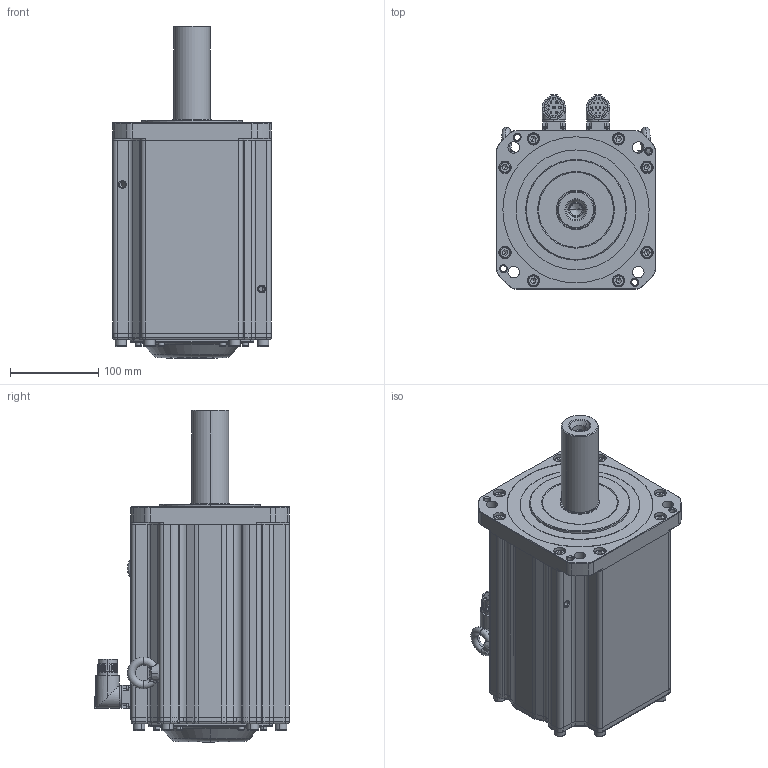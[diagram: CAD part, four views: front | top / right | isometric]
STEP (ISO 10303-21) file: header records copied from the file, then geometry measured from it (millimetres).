
FILE_DESCRIPTION (( 'STEP AP203' ), '1' );
FILE_NAME ('MC20-180-3M20-N752-0¡õPL-NNNN.STEP', '2025-07-30T13:18:09', ( '' ), ( '' ), 'SwSTEP 2.0', 'SolidWorks 2014', '' );
FILE_SCHEMA (( 'CONFIG_CONTROL_DESIGN' ));
Length unit declared in the file: millimetre
Products named in the file (1): MC20-180-3M20-N752-0¡õPL-NNNN
Bounding box: 180 x 221.35 x 376.95 mm (x, y, z)
Volume: 9225291.6 mm3; surface area: 538636.8 mm2
Topology: 40 solids, 42 shells, 2194 faces, 5079 edges, 3029 vertices
Faces by surface type: plane 879, cylinder 578, cone 482, torus 208, bspline 47
Entity records: 64150 total; most frequent: CARTESIAN_POINT 14085, DIRECTION 10995, ORIENTED_EDGE 9938, EDGE_CURVE 4969, AXIS2_PLACEMENT_3D 4263, VERTEX_POINT 3029, VECTOR 2469, LINE 2469
